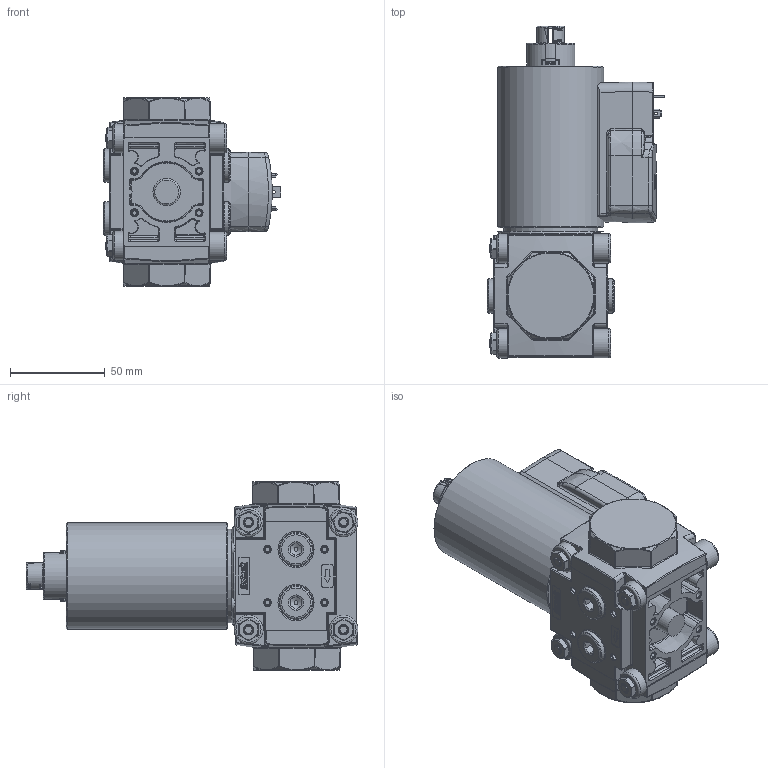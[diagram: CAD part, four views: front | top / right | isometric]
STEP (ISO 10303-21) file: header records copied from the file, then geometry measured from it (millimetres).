
FILE_DESCRIPTION(/* description */ (''),/* implementation_level */ '2;1');
FILE_NAME(/* name */ 'D:\项目文件\VGS\服务器图纸\VGS\VGS 25\3D\VGS10.2510B2.stp',/* time_stamp */ '2023-05-05T13:42:20+08:00',/* author */ ('JS'),/* organization */ (''),/* preprocessor_version */ 'ST-DEVELOPER v18',/* originating_system */ 'Autodesk Inventor 2020',/* authorisation */ '');
FILE_SCHEMA (('AUTOMOTIVE_DESIGN { 1 0 10303 214 3 1 1 }'));
Products named in the file (1): VGS25-00 包覆面_Shrinkwrap_1
Bounding box: 93.4 x 174.7 x 99.1 mm (x, y, z)
Surface area: 98358 mm2 (no closed solid volume)
Topology: 0 solids, 75 shells, 3069 faces, 8680 edges, 5580 vertices
Faces by surface type: bspline 948, plane 921, cylinder 586, cone 264, torus 240, sphere 110
Full cylindrical faces by diameter (mm): 0.4 x1, 1.5 x3, 3.1 x1, 3.141 x4, 3.5 x1, 3.9 x7, 4 x4, 4.2 x16, 4.4 x1, 4.8 x4, 5 x1, 5.8 x1, 6 x1, 7.04 x4, 8.15 x1, 8.4 x1, 8.5 x5, 10 x5, 12.3 x1, 12.5 x1, 15.2 x8, 17.9 x4, 19 x4, 20.3 x1, 21.8 x2, 49.4 x1, 51.9 x1, 56 x1
Entity records: 130832 total; most frequent: CARTESIAN_POINT 54966, ORIENTED_EDGE 15794, DIRECTION 13768, EDGE_CURVE 8524, VERTEX_POINT 5580, AXIS2_PLACEMENT_3D 5101, LINE 3566, VECTOR 3566
